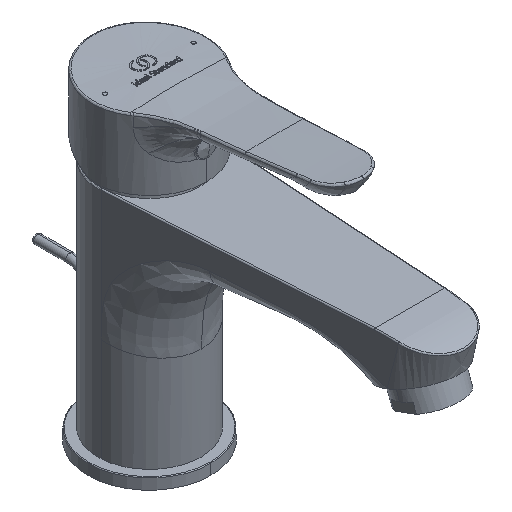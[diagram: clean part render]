
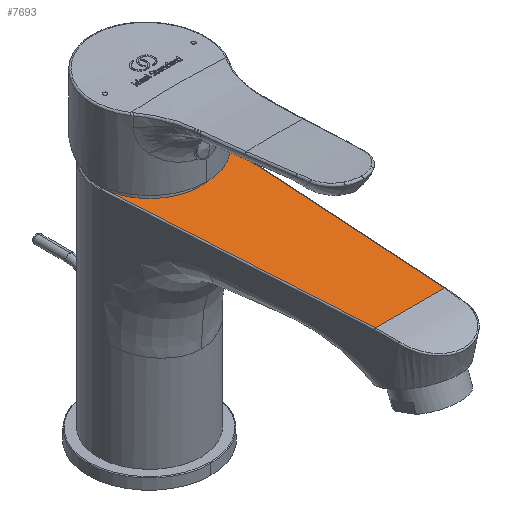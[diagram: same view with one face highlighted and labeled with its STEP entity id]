
A CAD part, isometric view. The second image highlights one B-rep face of the part: STEP entity #7693.
In plain terms, the highlighted planar face has unit normal (0, 0, 1).
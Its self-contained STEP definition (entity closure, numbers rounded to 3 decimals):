
#35=CARTESIAN_POINT('',(0.,0.,99.5));
#36=DIRECTION('',(0.,0.,-1.));
#37=DIRECTION('',(0.998,-0.061,0.));
#38=AXIS2_PLACEMENT_3D('',#35,#36,#37);
#40=DIRECTION('',(-0.061,-0.998,0.));
#41=VECTOR('',#40,104.944);
#42=CARTESIAN_POINT('',(20.462,-1.251,99.5));
#43=LINE('',#42,#41);
#44=DIRECTION('',(-1.,0.,0.));
#45=VECTOR('',#44,28.11);
#46=CARTESIAN_POINT('',(14.055,-106.,99.5));
#47=LINE('',#46,#45);
#48=DIRECTION('',(-0.061,0.998,0.));
#49=VECTOR('',#48,104.944);
#50=CARTESIAN_POINT('',(-14.055,-106.,99.5));
#51=LINE('',#50,#49);
#52=CARTESIAN_POINT('',(0.,0.,99.5));
#53=DIRECTION('',(0.,0.,-1.));
#54=DIRECTION('',(0.,-1.,0.));
#55=AXIS2_PLACEMENT_3D('',#52,#53,#54);
#6609=CARTESIAN_POINT('',(14.055,-106.,99.5));
#6643=CARTESIAN_POINT('',(-14.055,-106.,99.5));
#7188=VERTEX_POINT('',#6609);
#7192=VERTEX_POINT('',#6643);
#7316=CARTESIAN_POINT('',(20.462,-1.251,99.5));
#7318=VERTEX_POINT('',#7316);
#7319=CARTESIAN_POINT('',(0.,-20.5,99.5));
#7320=VERTEX_POINT('',#7319);
#7321=CARTESIAN_POINT('',(-20.462,-1.251,99.5));
#7322=VERTEX_POINT('',#7321);
#7676=CARTESIAN_POINT('',(0.,0.,99.5));
#7677=DIRECTION('',(0.,0.,-1.));
#7678=DIRECTION('',(0.,1.,0.));
#7679=AXIS2_PLACEMENT_3D('',#7676,#7677,#7678);
#7680=PLANE('',#7679);
#7682=ORIENTED_EDGE('',*,*,#7681,.F.);
#7684=ORIENTED_EDGE('',*,*,#7683,.T.);
#7686=ORIENTED_EDGE('',*,*,#7685,.T.);
#7688=ORIENTED_EDGE('',*,*,#7687,.T.);
#7690=ORIENTED_EDGE('',*,*,#7689,.F.);
#7691=EDGE_LOOP('',(#7682,#7684,#7686,#7688,#7690));
#7692=FACE_OUTER_BOUND('',#7691,.F.);
#39=CIRCLE('',#38,20.5);
#56=CIRCLE('',#55,20.5);
#7681=EDGE_CURVE('',#7318,#7320,#39,.T.);
#7683=EDGE_CURVE('',#7318,#7188,#43,.T.);
#7685=EDGE_CURVE('',#7188,#7192,#47,.T.);
#7687=EDGE_CURVE('',#7192,#7322,#51,.T.);
#7689=EDGE_CURVE('',#7320,#7322,#56,.T.);
#7693=ADVANCED_FACE('',(#7692),#7680,.F.);
